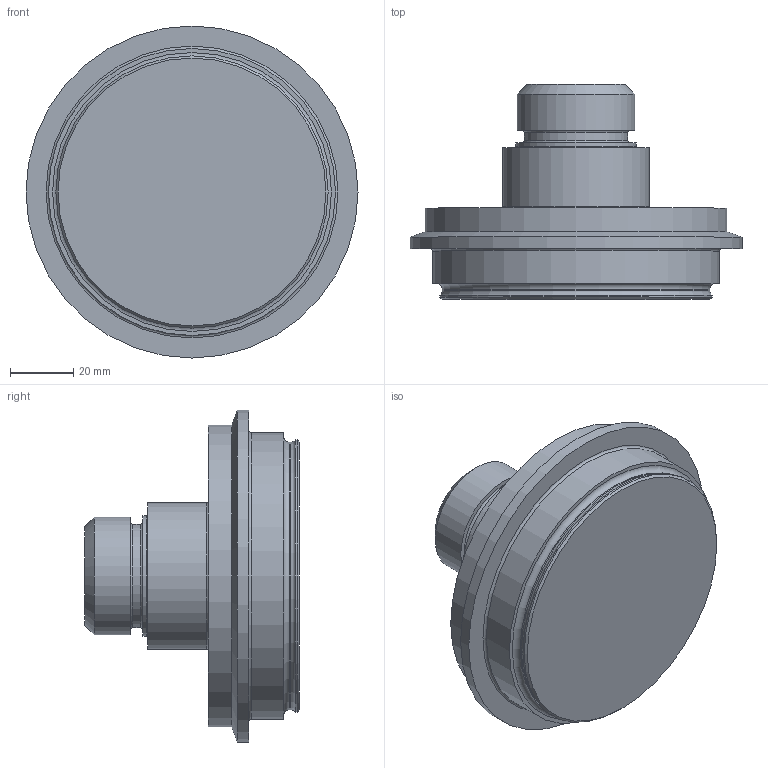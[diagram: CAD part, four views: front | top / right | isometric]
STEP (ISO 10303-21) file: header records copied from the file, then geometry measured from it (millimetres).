
FILE_DESCRIPTION(/* description */ ('STEP AP214'),/* implementation_level */ '2;1');
FILE_NAME(/* name */ 'C:\V\Delavan\Designs\Customer Shell Models\Valves\W61\WCB_w60_actuators_controltops_adapters_step_tcm11-10646 (2)\122307 3.STEP',/* time_stamp */ '2021-04-21T13:12:42+06:00',/* author */ ('H7M44K'),/* organization */ (''),/* preprocessor_version */ 'ST-DEVELOPER v18.1',/* originating_system */ 'Autodesk Inventor 2020',/* authorisation */ '');
FILE_SCHEMA (('AUTOMOTIVE_DESIGN { 1 0 10303 214 3 1 1 }'));
Length unit declared in the file: inch
Products named in the file (1): 122307
Bounding box: 104.78 x 67.82 x 104.78 mm (x, y, z)
Volume: 249655.8 mm3; surface area: 30308 mm2
Topology: 1 solids, 1 shells, 27 faces, 71 edges, 52 vertices
Faces by surface type: cylinder 9, plane 8, torus 7, cone 3
Full cylindrical faces by diameter (mm): 32.512 x1, 37.135 x1, 38.1 x1, 46.304 x1, 84.455 x1, 85.928 x1, 90.576 x1, 95.25 x1, 104.775 x1
Entity records: 939 total; most frequent: DIRECTION 186, CARTESIAN_POINT 151, ORIENTED_EDGE 142, AXIS2_PLACEMENT_3D 87, EDGE_CURVE 71, CIRCLE 59, VERTEX_POINT 52, EDGE_LOOP 33
